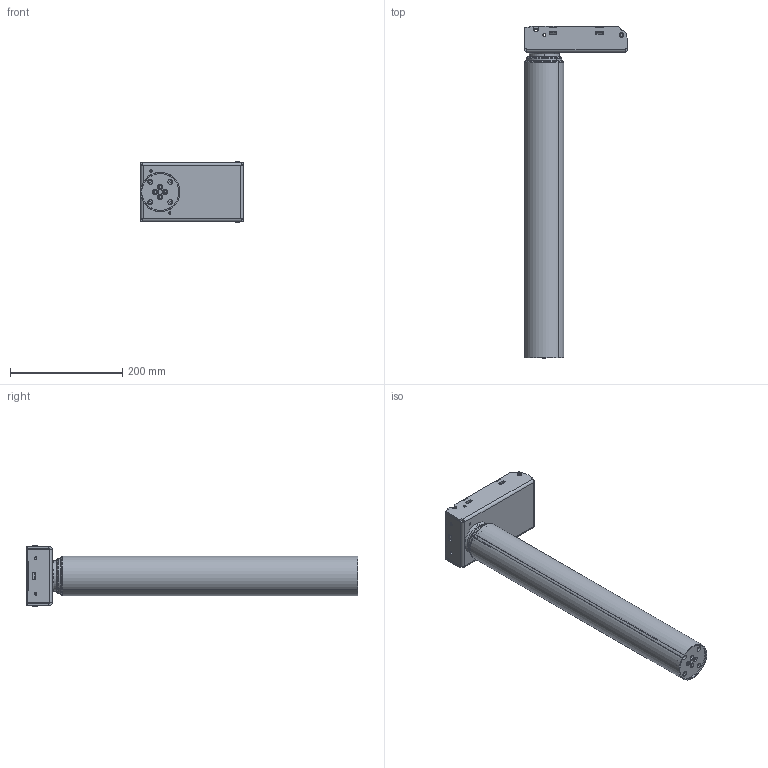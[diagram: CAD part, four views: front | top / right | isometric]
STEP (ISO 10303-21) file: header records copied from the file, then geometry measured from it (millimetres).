
FILE_DESCRIPTION (( 'STEP AP203' ), '1' );
FILE_NAME ('3D_TL9K.STEP', '2021-07-07T10:06:56', ( '' ), ( '' ), 'SwSTEP 2.0', 'SolidWorks 2015', '' );
FILE_SCHEMA (( 'CONFIG_CONTROL_DESIGN' ));
Products named in the file (1): 3D_TL9K
Bounding box: 183 x 591 x 108 mm (x, y, z)
Volume: 773801.2 mm3; surface area: 735976.4 mm2
Topology: 9 solids, 9 shells, 2462 faces, 6356 edges, 3751 vertices
Faces by surface type: cylinder 1010, plane 601, bspline 378, cone 168, torus 168, sphere 137
Entity records: 98355 total; most frequent: CARTESIAN_POINT 41931, ORIENTED_EDGE 12422, DIRECTION 11149, EDGE_CURVE 6211, AXIS2_PLACEMENT_3D 4340, VERTEX_POINT 3751, EDGE_LOOP 2576, VECTOR 2469
